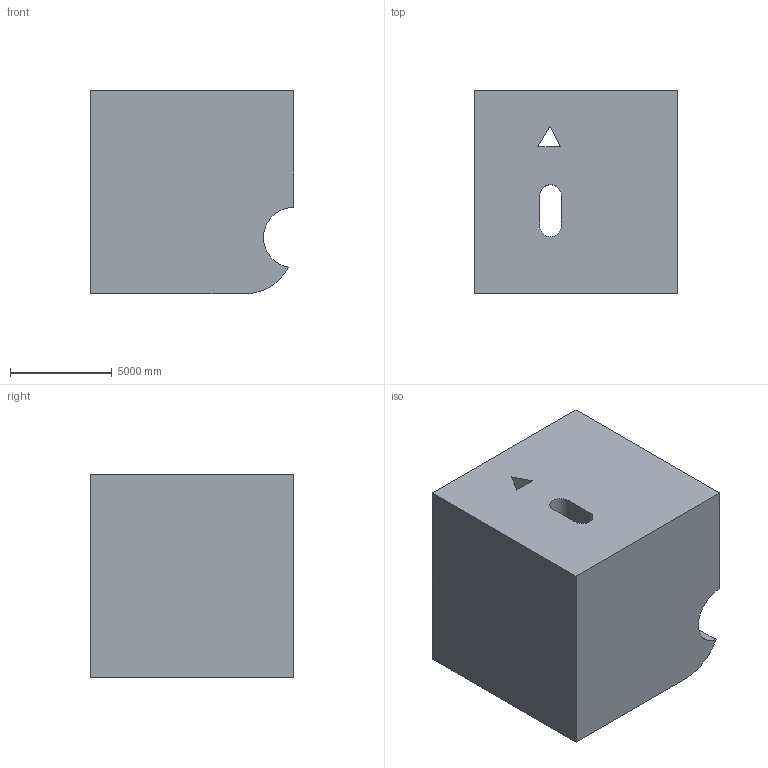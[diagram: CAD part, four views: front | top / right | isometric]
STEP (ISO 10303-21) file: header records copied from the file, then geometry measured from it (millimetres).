
FILE_DESCRIPTION (( 'STEP AP203' ), '1' );
FILE_NAME ('507.STEP', '2022-07-29T11:33:58', ( 'user' ), ( '' ), 'SwSTEP 2.0', 'SolidWorks 2021', '' );
FILE_SCHEMA (( 'CONFIG_CONTROL_DESIGN' ));
Length unit declared in the file: centimetre
Products named in the file (1): 507
Bounding box: 10000 x 10000 x 10000 mm (x, y, z)
Volume: 898666248168.9 mm3; surface area: 750064721 mm2
Topology: 1 solids, 1 shells, 28 faces, 87 edges, 58 vertices
Faces by surface type: plane 24, cylinder 4
Entity records: 1056 total; most frequent: CARTESIAN_POINT 180, ORIENTED_EDGE 174, DIRECTION 155, EDGE_CURVE 87, LINE 73, VECTOR 73, VERTEX_POINT 58, AXIS2_PLACEMENT_3D 41
